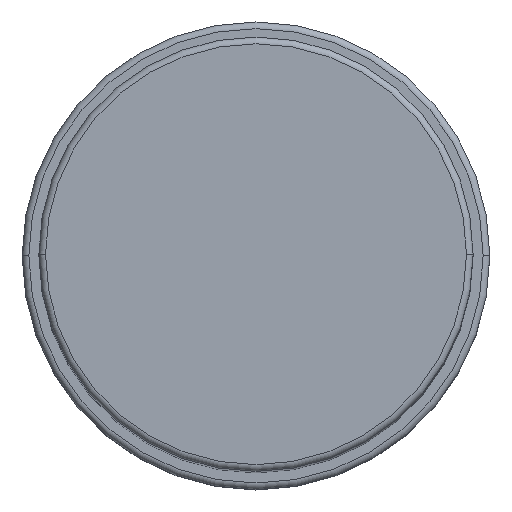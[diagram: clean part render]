
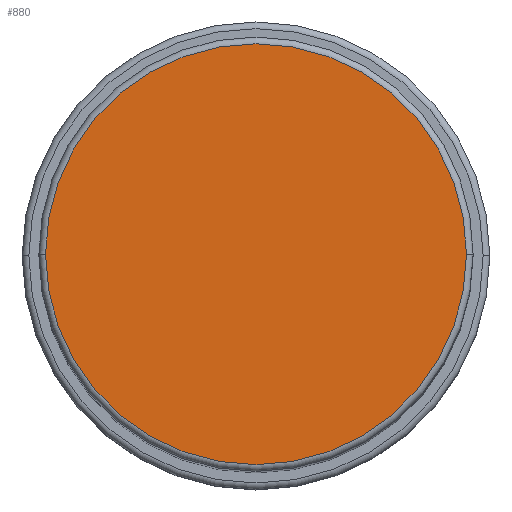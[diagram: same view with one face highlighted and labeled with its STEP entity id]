
A CAD part, top view. The second image highlights one B-rep face of the part: STEP entity #880.
In plain terms, the highlighted planar face has unit normal (0, 0, 1).
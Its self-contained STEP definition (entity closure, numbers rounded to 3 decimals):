
#42 = EDGE_CURVE ( 'NONE', #464, #979, #1110, .T. ) ;
#60 = EDGE_CURVE ( 'NONE', #979, #464, #1695, .T. ) ;
#94 = FACE_OUTER_BOUND ( 'NONE', #1012, .T. ) ;
#102 = DIRECTION ( 'NONE',  ( 0., 0., 1. ) ) ;
#204 = AXIS2_PLACEMENT_3D ( 'NONE', #1636, #102, #1323 ) ;
#409 = ORIENTED_EDGE ( 'NONE', *, *, #42, .T. ) ;
#463 = DIRECTION ( 'NONE',  ( 1., 0., 0. ) ) ;
#464 = VERTEX_POINT ( 'NONE', #1717 ) ;
#662 = AXIS2_PLACEMENT_3D ( 'NONE', #786, #761, #463 ) ;
#761 = DIRECTION ( 'NONE',  ( 0., 0., 1. ) ) ;
#786 = CARTESIAN_POINT ( 'NONE',  ( 0., 0., 153. ) ) ;
#880 = ADVANCED_FACE ( 'NONE', ( #94 ), #1177, .T. ) ;
#979 = VERTEX_POINT ( 'NONE', #1986 ) ;
#1012 = EDGE_LOOP ( 'NONE', ( #1498, #409 ) ) ;
#1079 = DIRECTION ( 'NONE',  ( 0., 0., 1. ) ) ;
#1110 = CIRCLE ( 'NONE', #1634, 31.5 ) ;
#1177 = PLANE ( 'NONE',  #204 ) ;
#1323 = DIRECTION ( 'NONE',  ( 1., 0., 0. ) ) ;
#1387 = CARTESIAN_POINT ( 'NONE',  ( 0., 0., 153. ) ) ;
#1498 = ORIENTED_EDGE ( 'NONE', *, *, #60, .T. ) ;
#1634 = AXIS2_PLACEMENT_3D ( 'NONE', #1387, #1079, #1692 ) ;
#1636 = CARTESIAN_POINT ( 'NONE',  ( 0., 0., 153. ) ) ;
#1692 = DIRECTION ( 'NONE',  ( 1., 0., 0. ) ) ;
#1695 = CIRCLE ( 'NONE', #662, 31.5 ) ;
#1717 = CARTESIAN_POINT ( 'NONE',  ( -31.5, 0., 153. ) ) ;
#1986 = CARTESIAN_POINT ( 'NONE',  ( 31.5, 0., 153. ) ) ;
